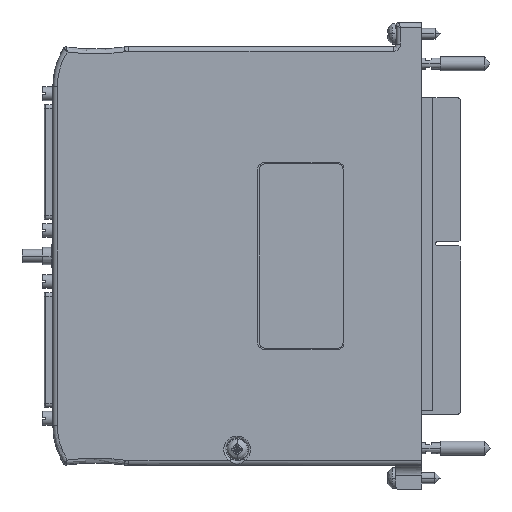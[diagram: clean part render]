
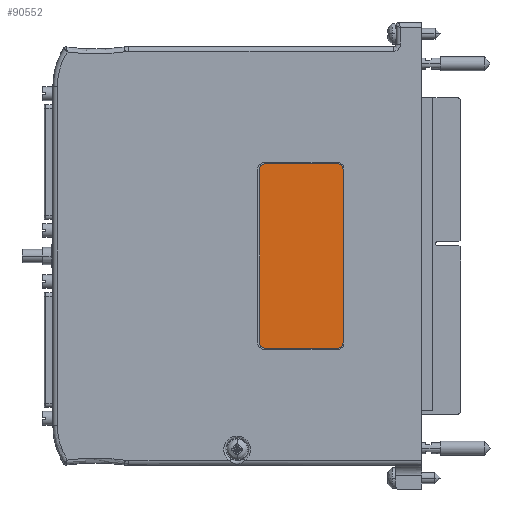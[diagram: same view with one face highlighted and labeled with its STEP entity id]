
A CAD part, front view. The second image highlights one B-rep face of the part: STEP entity #90552.
In plain terms, the highlighted planar face has unit normal (0, -1, 0).
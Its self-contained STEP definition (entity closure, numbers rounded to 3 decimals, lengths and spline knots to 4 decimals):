
#22289=CARTESIAN_POINT('',(-1.1151,-0.632,-0.938));
#22290=DIRECTION('',(0.,-1.,0.));
#22291=DIRECTION('',(-1.,0.,0.));
#22292=AXIS2_PLACEMENT_3D('',#22289,#22290,#22291);
#22294=DIRECTION('',(0.,0.,-1.));
#22295=VECTOR('',#22294,1.876);
#22296=CARTESIAN_POINT('',(-1.1771,-0.632,0.938));
#22297=LINE('',#22296,#22295);
#22298=CARTESIAN_POINT('',(-1.1151,-0.632,0.938));
#22299=DIRECTION('',(0.,-1.,0.));
#22300=DIRECTION('',(0.,0.,1.));
#22301=AXIS2_PLACEMENT_3D('',#22298,#22299,#22300);
#22303=DIRECTION('',(-1.,0.,0.));
#22304=VECTOR('',#22303,0.782);
#22305=CARTESIAN_POINT('',(-0.3331,-0.632,1.0001));
#22306=LINE('',#22305,#22304);
#22307=CARTESIAN_POINT('',(-0.3331,-0.632,0.9381));
#22308=DIRECTION('',(0.,-1.,0.));
#22309=DIRECTION('',(1.,0.,0.));
#22310=AXIS2_PLACEMENT_3D('',#22307,#22308,#22309);
#22312=DIRECTION('',(0.,0.,1.));
#22313=VECTOR('',#22312,1.876);
#22314=CARTESIAN_POINT('',(-0.2711,-0.632,-0.9379));
#22315=LINE('',#22314,#22313);
#22316=CARTESIAN_POINT('',(-0.3331,-0.632,-0.9379));
#22317=DIRECTION('',(0.,-1.,0.));
#22318=DIRECTION('',(0.,0.,-1.));
#22319=AXIS2_PLACEMENT_3D('',#22316,#22317,#22318);
#22321=DIRECTION('',(1.,0.,0.));
#22322=VECTOR('',#22321,0.782);
#22323=CARTESIAN_POINT('',(-1.1151,-0.632,-1.));
#22324=LINE('',#22323,#22322);
#67719=CARTESIAN_POINT('',(-1.1771,-0.632,-0.938));
#67720=CARTESIAN_POINT('',(-1.1151,-0.632,-1.));
#67721=VERTEX_POINT('',#67719);
#67722=VERTEX_POINT('',#67720);
#67723=CARTESIAN_POINT('',(-1.1151,-0.632,1.));
#67724=CARTESIAN_POINT('',(-1.1771,-0.632,0.938));
#67725=VERTEX_POINT('',#67723);
#67726=VERTEX_POINT('',#67724);
#67727=CARTESIAN_POINT('',(-0.2711,-0.632,0.9381));
#67728=CARTESIAN_POINT('',(-0.3331,-0.632,1.0001));
#67729=VERTEX_POINT('',#67727);
#67730=VERTEX_POINT('',#67728);
#67731=CARTESIAN_POINT('',(-0.3331,-0.632,-0.9999));
#67732=CARTESIAN_POINT('',(-0.2711,-0.632,-0.9379));
#67733=VERTEX_POINT('',#67731);
#67734=VERTEX_POINT('',#67732);
#90537=CARTESIAN_POINT('',(-1.1771,-0.632,1.));
#90538=DIRECTION('',(0.,-1.,0.));
#90539=DIRECTION('',(0.,0.,-1.));
#90540=AXIS2_PLACEMENT_3D('',#90537,#90538,#90539);
#90541=PLANE('',#90540);
#90542=ORIENTED_EDGE('',*,*,#90531,.F.);
#90543=ORIENTED_EDGE('',*,*,#90433,.F.);
#90544=ORIENTED_EDGE('',*,*,#90448,.F.);
#90545=ORIENTED_EDGE('',*,*,#90462,.F.);
#90546=ORIENTED_EDGE('',*,*,#90476,.F.);
#90547=ORIENTED_EDGE('',*,*,#90490,.F.);
#90548=ORIENTED_EDGE('',*,*,#90504,.F.);
#90549=ORIENTED_EDGE('',*,*,#90518,.F.);
#90550=EDGE_LOOP('',(#90542,#90543,#90544,#90545,#90546,#90547,#90548,#90549));
#90551=FACE_OUTER_BOUND('',#90550,.F.);
#90552=ADVANCED_FACE('',(#90551),#90541,.T.);
#22293=CIRCLE('',#22292,0.062);
#22302=CIRCLE('',#22301,0.062);
#22311=CIRCLE('',#22310,0.062);
#22320=CIRCLE('',#22319,0.062);
#90433=EDGE_CURVE('',#67726,#67721,#22297,.T.);
#90448=EDGE_CURVE('',#67725,#67726,#22302,.T.);
#90462=EDGE_CURVE('',#67730,#67725,#22306,.T.);
#90476=EDGE_CURVE('',#67729,#67730,#22311,.T.);
#90490=EDGE_CURVE('',#67734,#67729,#22315,.T.);
#90504=EDGE_CURVE('',#67733,#67734,#22320,.T.);
#90518=EDGE_CURVE('',#67722,#67733,#22324,.T.);
#90531=EDGE_CURVE('',#67721,#67722,#22293,.T.);
